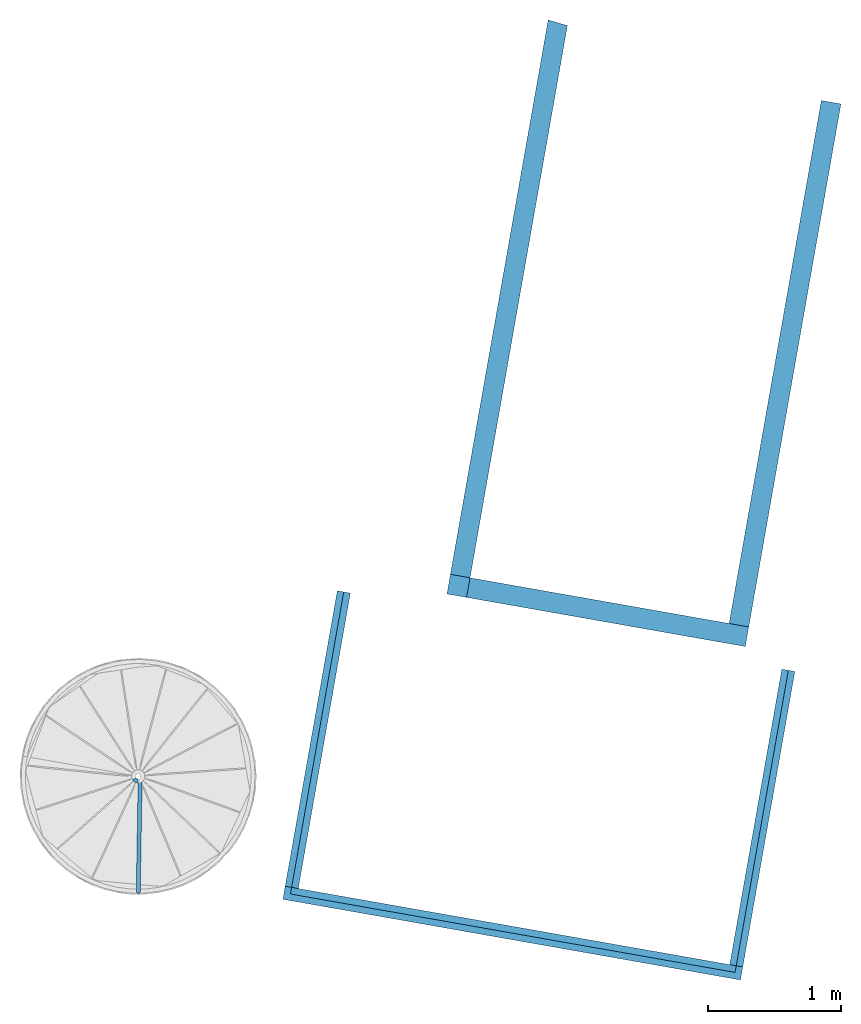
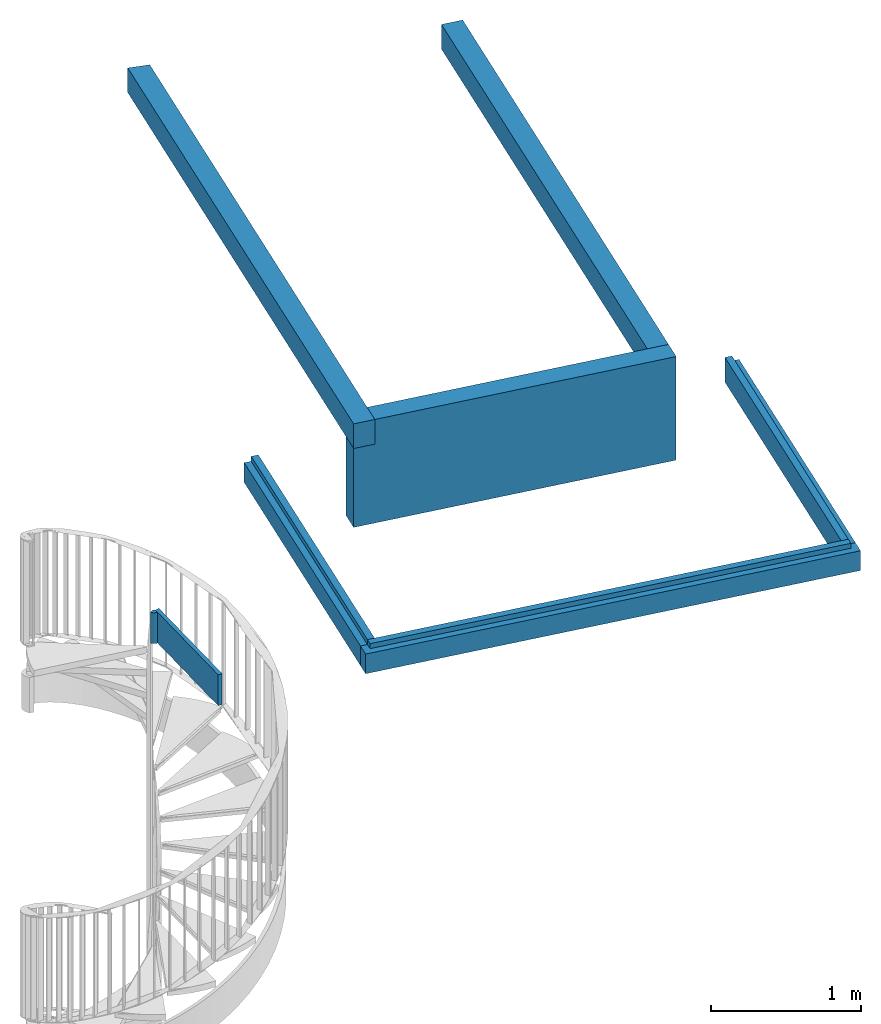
# One storey, incomplete: 6 walls, 2 members, 1 element without a shape of its own.
"""IFC2X3 building model written with IfcOpenShell, lengths in millimetres."""

from ifc_helpers import new_model, entity, si_unit, converted_unit, derived_unit, direction, frame, frame_2d, origin, place, context, subcontext, project, spatial, polyline, circle_curve, parameter, trimmed, segment, composite_curve, rectangle, outline, extrude, clip, bounded_halfspace, faceted_brep, material, layer, layer_set, layer_usage, type_object, element, aggregate, save


model = new_model("IFC2X3")

# Units and contexts
model_context = context("Model", 3, precision=0.01, world=origin(), true_north=direction((6.12303176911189e-17, 1.0)))
body_context = subcontext(model_context, "Body", "Model", "MODEL_VIEW")
ifc_project = project(units=[si_unit("LENGTHUNIT", "METRE", prefix="MILLI"), si_unit("AREAUNIT", "SQUARE_METRE"), si_unit("VOLUMEUNIT", "CUBIC_METRE"), converted_unit("PLANEANGLEUNIT", "DEGREE", entity("IfcRatioMeasure", 0.0174532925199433), si_unit("PLANEANGLEUNIT", "RADIAN"), dimensions=[0, 0, 0, 0, 0, 0, 0]), si_unit("MASSUNIT", "GRAM", prefix="KILO"), derived_unit("MASSDENSITYUNIT", [(si_unit("MASSUNIT", "GRAM", prefix="KILO"), 1), (si_unit("LENGTHUNIT", "METRE"), -3)]), si_unit("TIMEUNIT", "SECOND"), si_unit("FREQUENCYUNIT", "HERTZ"), si_unit("THERMODYNAMICTEMPERATUREUNIT", "DEGREE_CELSIUS"), derived_unit("THERMALTRANSMITTANCEUNIT", [(si_unit("MASSUNIT", "GRAM", prefix="KILO"), 1), (si_unit("THERMODYNAMICTEMPERATUREUNIT", "KELVIN"), -1), (si_unit("TIMEUNIT", "SECOND"), -3)]), derived_unit("VOLUMETRICFLOWRATEUNIT", [(si_unit("LENGTHUNIT", "METRE"), 3), (si_unit("TIMEUNIT", "SECOND"), -1)]), si_unit("ELECTRICCURRENTUNIT", "AMPERE"), si_unit("ELECTRICVOLTAGEUNIT", "VOLT"), si_unit("POWERUNIT", "WATT"), si_unit("FORCEUNIT", "NEWTON", prefix="KILO"), si_unit("ILLUMINANCEUNIT", "LUX"), si_unit("LUMINOUSFLUXUNIT", "LUMEN"), si_unit("LUMINOUSINTENSITYUNIT", "CANDELA"), derived_unit("USERDEFINED", [(si_unit("MASSUNIT", "GRAM", prefix="KILO"), -1), (si_unit("LENGTHUNIT", "METRE"), -2), (si_unit("TIMEUNIT", "SECOND"), 3), (si_unit("LUMINOUSFLUXUNIT", "LUMEN"), 1)]), derived_unit("LINEARVELOCITYUNIT", [(si_unit("LENGTHUNIT", "METRE"), 1), (si_unit("TIMEUNIT", "SECOND"), -1)]), si_unit("PRESSUREUNIT", "PASCAL"), derived_unit("USERDEFINED", [(si_unit("LENGTHUNIT", "METRE"), -2), (si_unit("MASSUNIT", "GRAM", prefix="KILO"), 1), (si_unit("TIMEUNIT", "SECOND"), -2)])], contexts=[model_context])

# Site, building, storey
site_placement = place(None, origin())
site = spatial("IfcSite", under=ifc_project, at=site_placement, Name="<Kadaster Gemeente>;<Kadaster nummer>;<Kadaster sectie>", CompositionType="ELEMENT")
building_placement = place(site_placement, origin())
building = spatial("IfcBuilding", under=site, at=building_placement, Name="JRCZ Middelburg", CompositionType="ELEMENT")
storey_placement = place(building_placement, frame((0.0, 0.0, -4000.0)))
storey = spatial("IfcBuildingStorey", under=building, at=storey_placement, Name="-1 kelder", CompositionType="ELEMENT", Elevation=-4000.0)

# Stair, members
stair_placement = place(storey_placement, origin())
stair = element("IfcStair", 1, at=stair_placement, inside=storey, Name="Assembled Stair:Stair", ObjectType="Assembled Stair:Vluchttrap", ShapeType="NOTDEFINED")
member_type = type_object("IfcMemberType", Name="Stringer:Stringer - vluchttrap", PredefinedType="STRINGER")
member_1_placement = place(stair_placement, origin())
member_1 = element("IfcMember", 2, at=member_1_placement, type_object=member_type, Name="Assembled Stair:Stair:2174468 Stringer 3", ObjectType="Stringer:Stringer - vluchttrap", context=body_context, shape_type="SweptSolid", body=[
    extrude(outline(composite_curve([segment(polyline([(-6.8979971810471, -14.7623727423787), (23.1020028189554, -14.7623727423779)]), True, "CONTINUOUS"), segment(trimmed(circle_curve(frame_2d((-26.8979971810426, -14.762372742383), x_axis=(0.537028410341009, 0.843564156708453)), 49.9999999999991), [parameter(302.481578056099)], [parameter(1.47068848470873e-11)], True, "PARAMETER"), True, "CONTINUOUS"), segment(polyline([(-0.0465766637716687, 27.4158350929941), (-16.1574289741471, 2.10891039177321)]), True, "CONTINUOUS"), segment(trimmed(circle_curve(frame_2d((-26.8979971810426, -14.762372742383), x_axis=(0.537028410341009, 0.843564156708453)), 19.9999999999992), [parameter(302.481578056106)], [parameter(4.94130975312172e-11)], True, "PARAMETER"), False, "CONTINUOUS")], self_intersect=False)), frame((22664.0843863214, 17867.0140344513, 3850.0), z_axis=(0.0, 0.0, 1.0), x_axis=(-0.852395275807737, -0.522897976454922, 0.0)), (0.0, 0.0, 1.0), 250.0),
])
member_2_placement = place(stair_placement, origin())
member_2 = element("IfcMember", 3, at=member_2_placement, type_object=member_type, Name="Assembled Stair:Stair:2174468 Stringer 4", ObjectType="Stringer:Stringer - vluchttrap", context=body_context, shape_type="SweptSolid", body=[
    extrude(outline(composite_curve([segment(polyline([(-432.499999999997, -15.0), (437.500000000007, -15.0)]), True, "CONTINUOUS"), segment(trimmed(circle_curve(frame_2d((477.499999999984, 15.0), x_axis=(0.0, 1.0)), 50.0), [parameter(90.0000000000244)], [parameter(126.869897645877)], True, "PARAMETER"), False, "CONTINUOUS"), segment(polyline([(427.499999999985, 15.0), (-432.499999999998, 15.0)]), True, "CONTINUOUS"), segment(polyline([(-432.499999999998, 15.0), (-432.499999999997, -15.0)]), True, "CONTINUOUS")], self_intersect=False)), frame((22686.8343507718, 17445.974508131, 3850.0), z_axis=(0.0, 0.0, 1.0), x_axis=(0.0166624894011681, 0.999861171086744, 0.0)), (0.0, 0.0, 1.0), 250.0),
])
aggregate(stair, [member_1, member_2])

# Walls
ifc_material = material(Name="RBM_f2_beton_ihwg C20-25")
ifc_layer_1 = layer(ifc_material, 150.0)
ifc_layer_set_1 = layer_set([ifc_layer_1], Name="Basic Wall:20_RBM_WA_betonnen_opstort_150mm")
ifc_layer_usage_1 = layer_usage(ifc_layer_set_1, "AXIS2", "NEGATIVE", 75.0)
wall_type_1 = type_object("IfcWallType", Name="Basic Wall:20_RBM_WA_betonnen_opstort_150mm", PredefinedType="STANDARD", material=ifc_layer_set_1)
wall_1_placement = place(storey_placement, frame((25078.464640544, 19254.5504504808, 3750.0), z_axis=(0.0, 0.0, 1.0), x_axis=(0.173648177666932, 0.984807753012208, 0.0)))
element("IfcWallStandardCase", 4, at=wall_1_placement, inside=storey, type_object=wall_type_1, material=ifc_layer_usage_1, Name="Basic Wall:20_RBM_WA_betonnen_opstort_150mm", ObjectType="Basic Wall:20_RBM_WA_betonnen_opstort_150mm", context=body_context, shape_type="SweptSolid", body=[
    extrude(outline(polyline([(4373.09893626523, -75.0), (4388.86457155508, 75.0), (150.0, 75.0), (0.0, 75.0), (0.0, -75.0), (150.0, -75.0), (4373.09893626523, -75.0)])), origin(), (0.0, 0.0, 1.0), 200.0),
])
ifc_layer_usage_2 = layer_usage(ifc_layer_set_1, "AXIS2", "NEGATIVE", 75.0)
wall_2_placement = place(storey_placement, frame((27897.6795228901, 22970.5642292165, 3750.0), z_axis=(0.0, 0.0, 1.0), x_axis=(-0.173648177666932, -0.984807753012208, 0.0)))
element("IfcWallStandardCase", 5, at=wall_2_placement, inside=storey, type_object=wall_type_1, material=ifc_layer_usage_2, Name="Basic Wall:20_RBM_WA_betonnen_opstort_150mm", ObjectType="Basic Wall:20_RBM_WA_betonnen_opstort_150mm", context=body_context, shape_type="SweptSolid", body=[
    extrude(rectangle(XDim=3999.11070637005, YDim=149.999999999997, at=frame_2d((1999.55535318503, 8.5265128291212e-14), x_axis=(-1.0, 0.0))), origin(), (0.0, 0.0, 1.0), 200.0),
])
ifc_layer_usage_3 = layer_usage(ifc_layer_set_1, "AXIS2", "NEGATIVE", 75.0)
wall_3_placement = place(storey_placement, frame((27264.0782045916, 18945.3248056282, 3110.0), z_axis=(0.0, 0.0, 1.0), x_axis=(-0.984807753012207, 0.173648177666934, 0.0)))
element("IfcWallStandardCase", 6, at=wall_3_placement, inside=storey, type_object=wall_type_1, material=ifc_layer_usage_3, Name="Basic Wall:20_RBM_WA_betonnen_opstort_150mm", ObjectType="Basic Wall:20_RBM_WA_betonnen_opstort_150mm", context=body_context, shape_type="Clipping", body=[
    clip(clip(extrude(rectangle(XDim=2281.1056526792, YDim=150.000000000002, at=frame_2d((1140.5528263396, 0.0), x_axis=(-1.0, 0.0))), origin(), (0.0, 0.0, 1.0), 840.000000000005), bounded_halfspace(frame((2131.1056526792, -75.0, 640.0), z_axis=(-1.0, 0.0, 0.0), x_axis=(0.0, -1.0, 0.0)), True, frame((2131.1056526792, -75.0, 640.0), z_axis=(-1.0, 0.0, 0.0), x_axis=(0.0, -1.0, 0.0)), polyline([(0.0, 0.0), (0.0, 200.0), (-150.0, 200.0), (-150.0, 0.0), (0.0, 0.0)]))), bounded_halfspace(frame((2131.10565267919, 75.0, 640.0), z_axis=(0.0, 0.0, -1.0), x_axis=(1.0, 0.0, 0.0)), True, frame((2131.10565267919, 75.0, 640.0), z_axis=(0.0, 0.0, -1.0), x_axis=(1.0, 0.0, 0.0)), polyline([(0.0, 0.0), (150.0, 0.0), (150.0, 150.0), (0.0, 150.0), (0.0, 0.0)]))),
])
ifc_layer_2 = layer(ifc_material, 100.0)
ifc_layer_set_2 = layer_set([ifc_layer_2], Name="Basic Wall:RBM_21_WA_betonnen_opstort_100mm")
wall_type_2 = type_object("IfcWallType", Name="Basic Wall:RBM_21_WA_betonnen_opstort_100mm", PredefinedType="STANDARD", material=ifc_layer_set_2)
wall_4_placement = place(storey_placement, frame((23777.6360712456, 17017.2062882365, 3750.0), z_axis=(0.0, 0.0, 1.0), x_axis=(0.984807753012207, -0.173648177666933, 0.0)))
element("IfcWall", 7, at=wall_4_placement, inside=storey, type_object=wall_type_2, material=ifc_material, Name="Basic Wall:RBM_21_WA_betonnen_opstort_100mm", ObjectType="Basic Wall:RBM_21_WA_betonnen_opstort_100mm", context=body_context, shape_type="Brep", body=[
    faceted_brep([(0.0, -50.0, 0.0), (3499.24038765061, -50.0, 0.0), (3499.24038765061, -50.0, 160.0), (0.0, -50.0, 160.0), (3499.24038765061, 50.0, 0.0), (3399.24038765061, 50.0, 0.0), (100.0, 50.0, 0.0), (0.0, 50.0, 0.0), (0.0, 50.0, 160.0), (49.2403876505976, 50.0, 160.0), (49.2403876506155, 50.0, 200.0), (100.0, 50.0, 200.0), (3399.24038765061, 50.0, 200.0), (3449.24038765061, 50.0, 200.0), (3449.24038765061, 50.0, 160.0), (3499.24038765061, 50.0, 160.0), (49.2403876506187, -0.759612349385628, 200.0), (3449.24038765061, -0.759612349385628, 200.0), (3449.24038765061, -0.759612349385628, 160.0), (49.2403876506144, -0.75961234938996, 160.0)], [[[0, 1, 2, 3]], [[4, 5, 6, 7, 8, 9, 10, 11, 12, 13, 14, 15]], [[1, 0, 7, 6, 5, 4]], [[13, 12, 11, 10, 16, 17]], [[1, 4, 15, 2]], [[7, 0, 3, 8]], [[18, 19, 9, 8, 3, 2, 15, 14]], [[9, 19, 16, 10]], [[19, 18, 17, 16]], [[18, 14, 13, 17]]]),
])
ifc_layer_usage_4 = layer_usage(ifc_layer_set_2, "AXIS2", "NEGATIVE", 50.0)
wall_5_placement = place(storey_placement, frame((27183.1571558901, 16467.4923682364, 3750.0), z_axis=(0.0, 0.0, 1.0), x_axis=(0.173648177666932, 0.984807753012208, 0.0)))
element("IfcWallStandardCase", 8, at=wall_5_placement, inside=storey, type_object=wall_type_2, material=ifc_layer_usage_4, Name="Basic Wall:RBM_21_WA_betonnen_opstort_100mm", ObjectType="Basic Wall:RBM_21_WA_betonnen_opstort_100mm", context=body_context, shape_type="Clipping", body=[
    clip(clip(extrude(rectangle(XDim=2259.2403876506, YDim=99.9999999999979, at=frame_2d((1129.6201938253, -5.25801624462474e-13), x_axis=(-1.0, 0.0))), origin(), (0.0, 0.0, 1.0), 200.0), bounded_halfspace(frame((2259.2403876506, 0.0, 160.0), z_axis=(0.0, 0.0, -1.0), x_axis=(-1.0, 0.0, 0.0)), True, frame((2259.2403876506, 0.0, 160.0), z_axis=(0.0, 0.0, -1.0), x_axis=(-1.0, 0.0, 0.0)), polyline([(0.0, 0.0), (0.0, -50.0), (2259.24038765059, -50.0), (2259.2403876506, 0.0), (0.0, 0.0)]))), bounded_halfspace(frame((0.0, 0.0, 160.0), z_axis=(0.0, 1.0, 0.0), x_axis=(0.0, 0.0, 1.0)), True, frame((0.0, 0.0, 160.0), z_axis=(0.0, 1.0, 0.0), x_axis=(0.0, 0.0, 1.0)), polyline([(0.0, 0.0), (40.0, 0.0), (40.0, 2259.24038765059), (0.0, 2259.2403876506), (0.0, 0.0)]))),
])
ifc_layer_usage_5 = layer_usage(ifc_layer_set_2, "AXIS2", "NEGATIVE", 50.0)
wall_6_placement = place(storey_placement, frame((24227.8718440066, 19282.6817166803, 3750.0), z_axis=(0.0, 0.0, 1.0), x_axis=(-0.173648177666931, -0.984807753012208, 0.0)))
element("IfcWallStandardCase", 9, at=wall_6_placement, inside=storey, type_object=wall_type_2, material=ifc_layer_usage_5, Name="Basic Wall:RBM_21_WA_betonnen_opstort_100mm", ObjectType="Basic Wall:RBM_21_WA_betonnen_opstort_100mm", context=body_context, shape_type="Clipping", body=[
    clip(clip(extrude(rectangle(XDim=2259.24038765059, YDim=99.9999999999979, at=frame_2d((1129.6201938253, -1.77635683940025e-14), x_axis=(-1.0, 0.0))), origin(), (0.0, 0.0, 1.0), 200.0), bounded_halfspace(frame((2259.24038765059, -0.759612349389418, 160.0), z_axis=(0.0, 0.0, -1.0), x_axis=(1.0, 0.0, 0.0)), True, frame((2259.24038765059, -0.759612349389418, 160.0), z_axis=(0.0, 0.0, -1.0), x_axis=(1.0, 0.0, 0.0)), polyline([(0.0, 0.0), (0.0, 49.2403876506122), (-2259.24038765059, 49.2403876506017), (-2259.24038765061, 0.0), (0.0, 0.0)]))), bounded_halfspace(frame((0.0, -0.759612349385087, 160.0), z_axis=(0.0, 1.0, 0.0), x_axis=(0.0, 0.0, 1.0)), True, frame((0.0, -0.759612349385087, 160.0), z_axis=(0.0, 1.0, 0.0), x_axis=(0.0, 0.0, 1.0)), polyline([(0.0, 0.0), (40.0, 0.0), (40.0, 2259.2403876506), (0.0, 2259.2403876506), (0.0, 0.0)]))),
])

save(model, "model.ifc")
